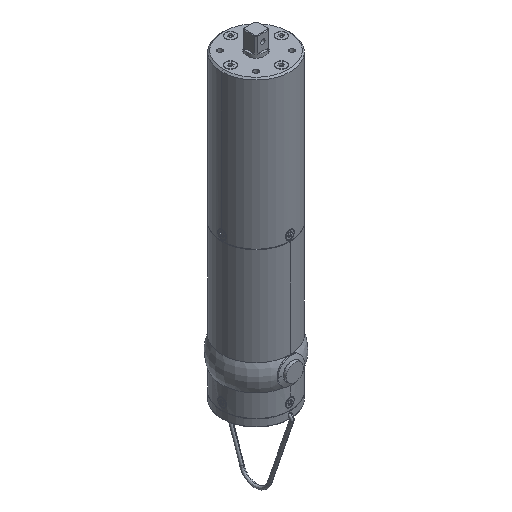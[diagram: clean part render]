
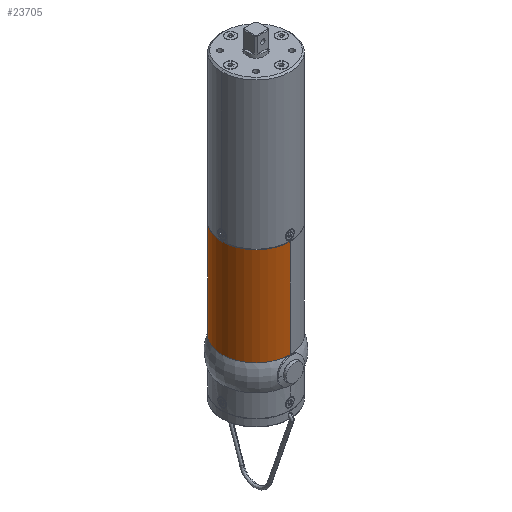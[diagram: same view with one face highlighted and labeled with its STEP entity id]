
A CAD part, isometric view. The second image highlights one B-rep face of the part: STEP entity #23705.
In plain terms, the highlighted cylindrical face has radius 23.5 mm (diameter 47 mm), a partial arc.
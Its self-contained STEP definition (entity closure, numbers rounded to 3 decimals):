
#1012 = DIRECTION ( 'NONE',  ( 0., 0., -1. ) ) ;
#1788 = ORIENTED_EDGE ( 'NONE', *, *, #2423, .F. ) ;
#2423 = EDGE_CURVE ( 'NONE', #23355, #2479, #34254, .T. ) ;
#2479 = VERTEX_POINT ( 'NONE', #37449 ) ;
#3034 = LINE ( 'NONE', #44500, #9729 ) ;
#3415 = EDGE_CURVE ( 'NONE', #2479, #4823, #22910, .T. ) ;
#4063 = ORIENTED_EDGE ( 'NONE', *, *, #3415, .F. ) ;
#4768 = AXIS2_PLACEMENT_3D ( 'NONE', #36385, #31642, #26890 ) ;
#4823 = VERTEX_POINT ( 'NONE', #39395 ) ;
#5662 = CARTESIAN_POINT ( 'NONE',  ( 0.65, 0., -96.8 ) ) ;
#7134 = FACE_OUTER_BOUND ( 'NONE', #7839, .T. ) ;
#7839 = EDGE_LOOP ( 'NONE', ( #13343, #36621, #4063, #1788 ) ) ;
#9729 = VECTOR ( 'NONE', #39777, 1000. ) ;
#10731 = CYLINDRICAL_SURFACE ( 'NONE', #4768, 23.5 ) ;
#12454 = CARTESIAN_POINT ( 'NONE',  ( 0.65, -23.5, -96.8 ) ) ;
#13343 = ORIENTED_EDGE ( 'NONE', *, *, #45020, .T. ) ;
#14885 = VERTEX_POINT ( 'NONE', #39061 ) ;
#20881 = CARTESIAN_POINT ( 'NONE',  ( 0.65, 0., -164.1 ) ) ;
#22910 = CIRCLE ( 'NONE', #23563, 23.5 ) ;
#23355 = VERTEX_POINT ( 'NONE', #12454 ) ;
#23563 = AXIS2_PLACEMENT_3D ( 'NONE', #20881, #38713, #33985 ) ;
#23705 = ADVANCED_FACE ( 'NONE', ( #7134 ), #10731, .T. ) ;
#24463 = VECTOR ( 'NONE', #24775, 1000. ) ;
#24775 = DIRECTION ( 'NONE',  ( 0., 0., -1. ) ) ;
#26890 = DIRECTION ( 'NONE',  ( 0., -1., 0. ) ) ;
#29522 = CARTESIAN_POINT ( 'NONE',  ( 0.65, -23.5, -197.6 ) ) ;
#31642 = DIRECTION ( 'NONE',  ( 0., 0., -1. ) ) ;
#33985 = DIRECTION ( 'NONE',  ( 0., -1., 0. ) ) ;
#34254 = LINE ( 'NONE', #29522, #24463 ) ;
#36385 = CARTESIAN_POINT ( 'NONE',  ( 0.65, 0., -197.6 ) ) ;
#36621 = ORIENTED_EDGE ( 'NONE', *, *, #39198, .T. ) ;
#36890 = AXIS2_PLACEMENT_3D ( 'NONE', #5662, #1012, #42420 ) ;
#37449 = CARTESIAN_POINT ( 'NONE',  ( 0.65, -23.5, -164.1 ) ) ;
#38713 = DIRECTION ( 'NONE',  ( 0., 0., -1. ) ) ;
#39061 = CARTESIAN_POINT ( 'NONE',  ( 0.65, 23.5, -96.8 ) ) ;
#39198 = EDGE_CURVE ( 'NONE', #14885, #4823, #3034, .T. ) ;
#39395 = CARTESIAN_POINT ( 'NONE',  ( 0.65, 23.5, -164.1 ) ) ;
#39777 = DIRECTION ( 'NONE',  ( 0., 0., -1. ) ) ;
#39871 = CIRCLE ( 'NONE', #36890, 23.5 ) ;
#42420 = DIRECTION ( 'NONE',  ( 0., -1., 0. ) ) ;
#44500 = CARTESIAN_POINT ( 'NONE',  ( 0.65, 23.5, -197.6 ) ) ;
#45020 = EDGE_CURVE ( 'NONE', #23355, #14885, #39871, .T. ) ;
